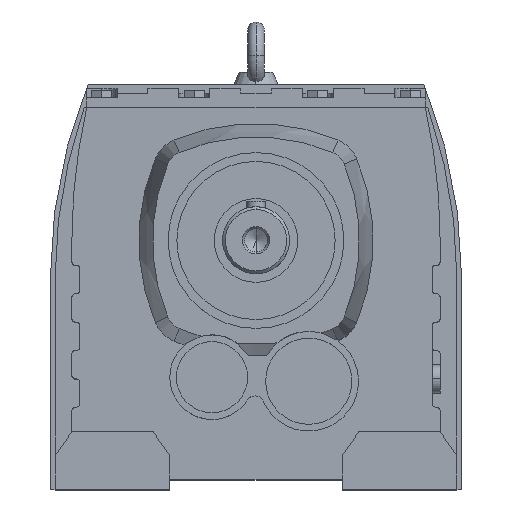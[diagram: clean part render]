
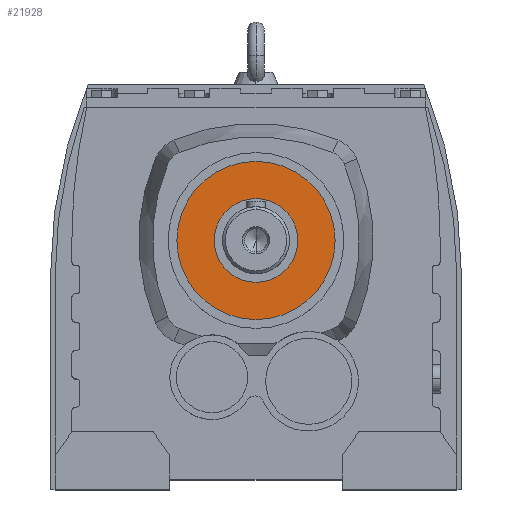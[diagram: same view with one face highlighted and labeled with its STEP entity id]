
A CAD part, top view. The second image highlights one B-rep face of the part: STEP entity #21928.
In plain terms, the highlighted planar face has unit normal (0, 0, 1).
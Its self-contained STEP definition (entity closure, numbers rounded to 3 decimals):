
#17466 = CYLINDRICAL_SURFACE('',#17467,41.344);
#17467 = AXIS2_PLACEMENT_3D('',#17468,#17469,#17470);
#17468 = CARTESIAN_POINT('',(0.,20.7,280.));
#17469 = DIRECTION('',(0.,0.,1.));
#17470 = DIRECTION('',(0.,-1.,0.));
#17496 = CYLINDRICAL_SURFACE('',#17497,41.344);
#17497 = AXIS2_PLACEMENT_3D('',#17498,#17499,#17500);
#17498 = CARTESIAN_POINT('',(0.,20.7,280.));
#17499 = DIRECTION('',(0.,0.,1.));
#17500 = DIRECTION('',(0.,-1.,0.));
#21010 = VERTEX_POINT('',#21011);
#21011 = CARTESIAN_POINT('',(0.,62.044,203.));
#21032 = VERTEX_POINT('',#21033);
#21033 = CARTESIAN_POINT('',(0.,-20.644,203.));
#21052 = EDGE_CURVE('',#21010,#21032,#21053,.T.);
#21053 = SURFACE_CURVE('',#21054,(#21059,#21065),.PCURVE_S1.);
#21054 = CIRCLE('',#21055,41.344);
#21055 = AXIS2_PLACEMENT_3D('',#21056,#21057,#21058);
#21056 = CARTESIAN_POINT('',(0.,20.7,203.));
#21057 = DIRECTION('',(0.,0.,-1.));
#21058 = DIRECTION('',(-1.,0.,0.));
#21059 = PCURVE('',#17466,#21060);
#21060 = DEFINITIONAL_REPRESENTATION('',(#21061),#21064);
#21061 = B_SPLINE_CURVE_WITH_KNOTS('',1,(#21062,#21063),.UNSPECIFIED.,
  .F.,.F.,(2,2),(1.571,4.712),
  .PIECEWISE_BEZIER_KNOTS.);
#21062 = CARTESIAN_POINT('',(3.142,-77.));
#21063 = CARTESIAN_POINT('',(0.,-77.));
#21064 = ( GEOMETRIC_REPRESENTATION_CONTEXT(2) 
PARAMETRIC_REPRESENTATION_CONTEXT() REPRESENTATION_CONTEXT('2D SPACE',''
  ) );
#21065 = PCURVE('',#21066,#21071);
#21066 = PLANE('',#21067);
#21067 = AXIS2_PLACEMENT_3D('',#21068,#21069,#21070);
#21068 = CARTESIAN_POINT('',(-17.834,14.034,203.));
#21069 = DIRECTION('',(0.,0.,-1.));
#21070 = DIRECTION('',(-1.,0.,0.));
#21071 = DEFINITIONAL_REPRESENTATION('',(#21072),#21076);
#21072 = CIRCLE('',#21073,41.344);
#21073 = AXIS2_PLACEMENT_2D('',#21074,#21075);
#21074 = CARTESIAN_POINT('',(-17.834,6.666));
#21075 = DIRECTION('',(1.,0.));
#21076 = ( GEOMETRIC_REPRESENTATION_CONTEXT(2) 
PARAMETRIC_REPRESENTATION_CONTEXT() REPRESENTATION_CONTEXT('2D SPACE',''
  ) );
#21081 = EDGE_CURVE('',#21032,#21010,#21082,.T.);
#21082 = SURFACE_CURVE('',#21083,(#21088,#21094),.PCURVE_S1.);
#21083 = CIRCLE('',#21084,41.344);
#21084 = AXIS2_PLACEMENT_3D('',#21085,#21086,#21087);
#21085 = CARTESIAN_POINT('',(0.,20.7,203.));
#21086 = DIRECTION('',(0.,0.,-1.));
#21087 = DIRECTION('',(-1.,0.,0.));
#21088 = PCURVE('',#17496,#21089);
#21089 = DEFINITIONAL_REPRESENTATION('',(#21090),#21093);
#21090 = B_SPLINE_CURVE_WITH_KNOTS('',1,(#21091,#21092),.UNSPECIFIED.,
  .F.,.F.,(2,2),(4.712,7.854),
  .PIECEWISE_BEZIER_KNOTS.);
#21091 = CARTESIAN_POINT('',(6.283,-77.));
#21092 = CARTESIAN_POINT('',(3.142,-77.));
#21093 = ( GEOMETRIC_REPRESENTATION_CONTEXT(2) 
PARAMETRIC_REPRESENTATION_CONTEXT() REPRESENTATION_CONTEXT('2D SPACE',''
  ) );
#21094 = PCURVE('',#21066,#21095);
#21095 = DEFINITIONAL_REPRESENTATION('',(#21096),#21100);
#21096 = CIRCLE('',#21097,41.344);
#21097 = AXIS2_PLACEMENT_2D('',#21098,#21099);
#21098 = CARTESIAN_POINT('',(-17.834,6.666));
#21099 = DIRECTION('',(1.,0.));
#21100 = ( GEOMETRIC_REPRESENTATION_CONTEXT(2) 
PARAMETRIC_REPRESENTATION_CONTEXT() REPRESENTATION_CONTEXT('2D SPACE',''
  ) );
#21928 = ADVANCED_FACE('',(#21929,#21995),#21066,.F.);
#21929 = FACE_BOUND('',#21930,.T.);
#21930 = EDGE_LOOP('',(#21931,#21965));
#21931 = ORIENTED_EDGE('',*,*,#21932,.F.);
#21932 = EDGE_CURVE('',#21933,#21935,#21937,.T.);
#21933 = VERTEX_POINT('',#21934);
#21934 = CARTESIAN_POINT('',(0.,-1.175,203.));
#21935 = VERTEX_POINT('',#21936);
#21936 = CARTESIAN_POINT('',(0.,42.575,203.));
#21937 = SURFACE_CURVE('',#21938,(#21943,#21954),.PCURVE_S1.);
#21938 = CIRCLE('',#21939,21.875);
#21939 = AXIS2_PLACEMENT_3D('',#21940,#21941,#21942);
#21940 = CARTESIAN_POINT('',(0.,20.7,203.));
#21941 = DIRECTION('',(0.,0.,1.));
#21942 = DIRECTION('',(-1.,0.,0.));
#21943 = PCURVE('',#21066,#21944);
#21944 = DEFINITIONAL_REPRESENTATION('',(#21945),#21953);
#21945 = ( BOUNDED_CURVE() B_SPLINE_CURVE(2,(#21946,#21947,#21948,#21949
    ,#21950,#21951,#21952),.UNSPECIFIED.,.F.,.F.) 
B_SPLINE_CURVE_WITH_KNOTS((1,2,2,2,2,1),(-2.094,0.,
    2.094,4.189,6.283,8.378),
.UNSPECIFIED.) CURVE() GEOMETRIC_REPRESENTATION_ITEM() 
RATIONAL_B_SPLINE_CURVE((1.,0.5,1.,0.5,1.,0.5,1.)) REPRESENTATION_ITEM(
  '') );
#21946 = CARTESIAN_POINT('',(4.041,6.666));
#21947 = CARTESIAN_POINT('',(4.041,-31.223));
#21948 = CARTESIAN_POINT('',(-28.772,-12.279));
#21949 = CARTESIAN_POINT('',(-61.584,6.666));
#21950 = CARTESIAN_POINT('',(-28.772,25.61));
#21951 = CARTESIAN_POINT('',(4.041,44.554));
#21952 = CARTESIAN_POINT('',(4.041,6.666));
#21953 = ( GEOMETRIC_REPRESENTATION_CONTEXT(2) 
PARAMETRIC_REPRESENTATION_CONTEXT() REPRESENTATION_CONTEXT('2D SPACE',''
  ) );
#21954 = PCURVE('',#21955,#21960);
#21955 = CYLINDRICAL_SURFACE('',#21956,21.875);
#21956 = AXIS2_PLACEMENT_3D('',#21957,#21958,#21959);
#21957 = CARTESIAN_POINT('',(0.,20.7,280.));
#21958 = DIRECTION('',(0.,0.,1.));
#21959 = DIRECTION('',(0.,-1.,0.));
#21960 = DEFINITIONAL_REPRESENTATION('',(#21961),#21964);
#21961 = B_SPLINE_CURVE_WITH_KNOTS('',1,(#21962,#21963),.UNSPECIFIED.,
  .F.,.F.,(2,2),(1.571,4.712),
  .PIECEWISE_BEZIER_KNOTS.);
#21962 = CARTESIAN_POINT('',(0.,-77.));
#21963 = CARTESIAN_POINT('',(3.142,-77.));
#21964 = ( GEOMETRIC_REPRESENTATION_CONTEXT(2) 
PARAMETRIC_REPRESENTATION_CONTEXT() REPRESENTATION_CONTEXT('2D SPACE',''
  ) );
#21965 = ORIENTED_EDGE('',*,*,#21966,.F.);
#21966 = EDGE_CURVE('',#21935,#21933,#21967,.T.);
#21967 = SURFACE_CURVE('',#21968,(#21973,#21984),.PCURVE_S1.);
#21968 = CIRCLE('',#21969,21.875);
#21969 = AXIS2_PLACEMENT_3D('',#21970,#21971,#21972);
#21970 = CARTESIAN_POINT('',(0.,20.7,203.));
#21971 = DIRECTION('',(0.,0.,1.));
#21972 = DIRECTION('',(-1.,0.,0.));
#21973 = PCURVE('',#21066,#21974);
#21974 = DEFINITIONAL_REPRESENTATION('',(#21975),#21983);
#21975 = ( BOUNDED_CURVE() B_SPLINE_CURVE(2,(#21976,#21977,#21978,#21979
    ,#21980,#21981,#21982),.UNSPECIFIED.,.F.,.F.) 
B_SPLINE_CURVE_WITH_KNOTS((1,2,2,2,2,1),(-2.094,0.,
    2.094,4.189,6.283,8.378),
.UNSPECIFIED.) CURVE() GEOMETRIC_REPRESENTATION_ITEM() 
RATIONAL_B_SPLINE_CURVE((1.,0.5,1.,0.5,1.,0.5,1.)) REPRESENTATION_ITEM(
  '') );
#21976 = CARTESIAN_POINT('',(4.041,6.666));
#21977 = CARTESIAN_POINT('',(4.041,-31.223));
#21978 = CARTESIAN_POINT('',(-28.772,-12.279));
#21979 = CARTESIAN_POINT('',(-61.584,6.666));
#21980 = CARTESIAN_POINT('',(-28.772,25.61));
#21981 = CARTESIAN_POINT('',(4.041,44.554));
#21982 = CARTESIAN_POINT('',(4.041,6.666));
#21983 = ( GEOMETRIC_REPRESENTATION_CONTEXT(2) 
PARAMETRIC_REPRESENTATION_CONTEXT() REPRESENTATION_CONTEXT('2D SPACE',''
  ) );
#21984 = PCURVE('',#21985,#21990);
#21985 = CYLINDRICAL_SURFACE('',#21986,21.875);
#21986 = AXIS2_PLACEMENT_3D('',#21987,#21988,#21989);
#21987 = CARTESIAN_POINT('',(0.,20.7,280.));
#21988 = DIRECTION('',(0.,0.,1.));
#21989 = DIRECTION('',(0.,-1.,0.));
#21990 = DEFINITIONAL_REPRESENTATION('',(#21991),#21994);
#21991 = B_SPLINE_CURVE_WITH_KNOTS('',1,(#21992,#21993),.UNSPECIFIED.,
  .F.,.F.,(2,2),(4.712,7.854),
  .PIECEWISE_BEZIER_KNOTS.);
#21992 = CARTESIAN_POINT('',(3.142,-77.));
#21993 = CARTESIAN_POINT('',(6.283,-77.));
#21994 = ( GEOMETRIC_REPRESENTATION_CONTEXT(2) 
PARAMETRIC_REPRESENTATION_CONTEXT() REPRESENTATION_CONTEXT('2D SPACE',''
  ) );
#21995 = FACE_BOUND('',#21996,.T.);
#21996 = EDGE_LOOP('',(#21997,#21998));
#21997 = ORIENTED_EDGE('',*,*,#21081,.F.);
#21998 = ORIENTED_EDGE('',*,*,#21052,.F.);
